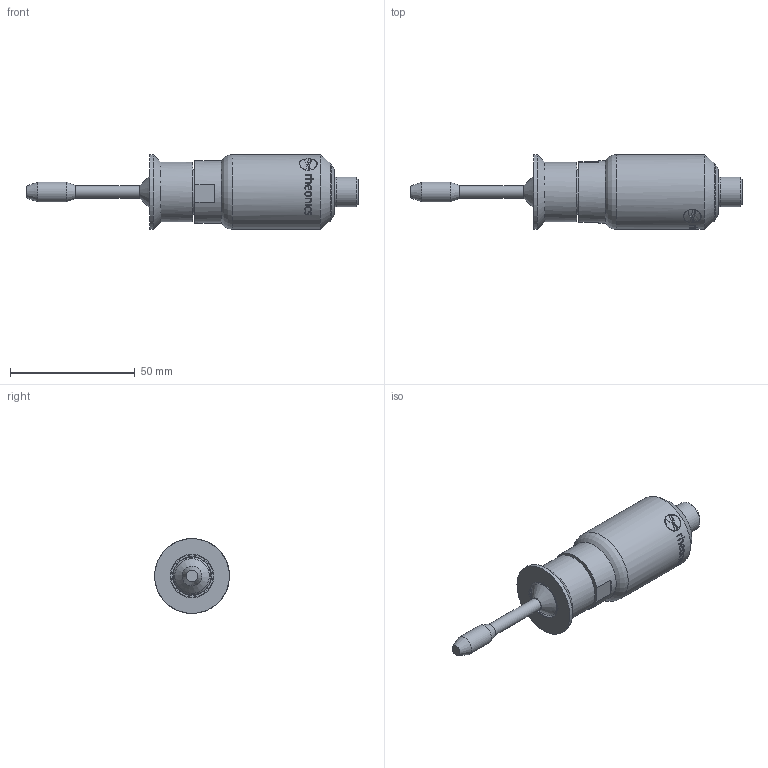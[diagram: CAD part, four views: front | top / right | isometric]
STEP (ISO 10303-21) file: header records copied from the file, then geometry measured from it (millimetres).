
FILE_DESCRIPTION(/* description */ ('Unknown'),/* implementation_level */ '2;1');
FILE_NAME(/* name */ 'SRV-X1-12G_HAW-12G-OTN',/* time_stamp */ '2023-06-05T11:33:09-05:00',/* author */ ('Unknown'),/* organization */ ('Unknown'),/* preprocessor_version */ 'ST-DEVELOPER v16.7',/* originating_system */ 'Solid Edge',/* authorisation */ 'Unknown');
FILE_SCHEMA (('AUTOMOTIVE_DESIGN {1 0 10303 214 3 1 1}'));
Length unit declared in the file: millimetre
Products named in the file (4): SRV-X1-12G_HAW-12G-OTN; HAW-12G-OTN; G0.5-Oring; SRV_G0.5_B
Assembly tree (3 placements, depth 2):
  SRV-X1-12G_HAW-12G-OTN
    HAW-12G-OTN
    G0.5-Oring
    SRV_G0.5_B
Bounding box: 133.13 x 30 x 30 mm (x, y, z)
Volume: 46989.2 mm3; surface area: 12343.3 mm2
Topology: 3 solids, 3 shells, 189 faces, 487 edges, 312 vertices
Faces by surface type: bspline 74, cylinder 42, plane 42, cone 17, sphere 8, torus 6
Full cylindrical faces by diameter (mm): 0.8 x8, 2 x1, 5.019 x1, 8 x2, 12 x2, 13.9 x1, 18 x1, 18.631 x1, 20.955 x1, 24 x1, 25 x1, 30 x2
Entity records: 8885 total; most frequent: CARTESIAN_POINT 5123, ORIENTED_EDGE 796, DIRECTION 543, EDGE_CURVE 398, VERTEX_POINT 285, FACE_BOUND 263, EDGE_LOOP 262, AXIS2_PLACEMENT_3D 206
